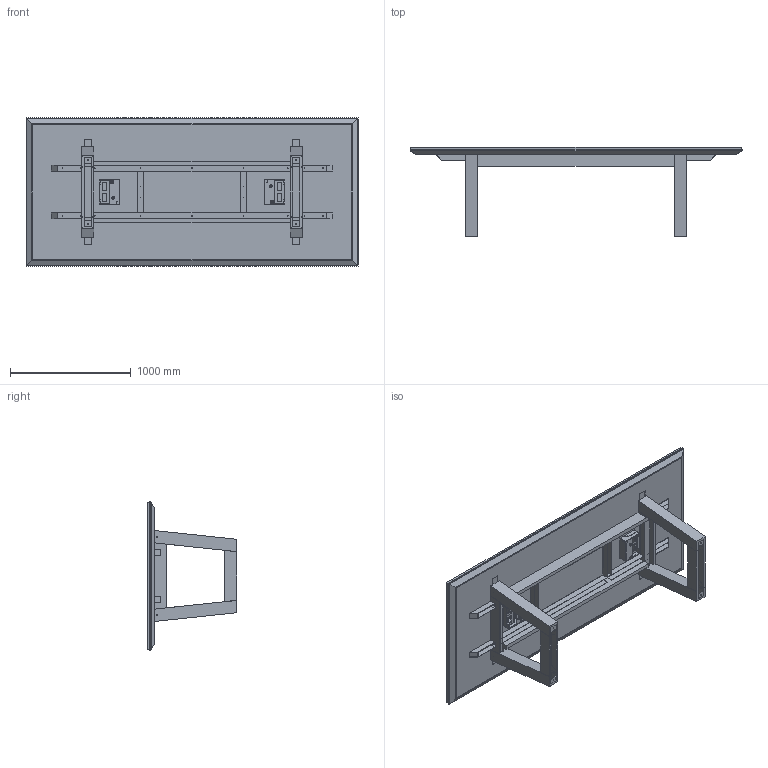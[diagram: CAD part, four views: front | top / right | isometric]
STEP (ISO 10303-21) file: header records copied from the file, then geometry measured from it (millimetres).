
FILE_DESCRIPTION(/* description */ ('','CAx-IF Rec.Pracs.---Representation and Presentation of Product Manufacturing Information (PMI)---4.0---2014-10-13'),/* implementation_level */ '2;1');
FILE_NAME(/* name */ 'TABLE_IMPRESS 2.stp',/* time_stamp */ '2024-12-07T16:04:40-05:00',/* author */ ('mbowman'),/* organization */ (''),/* preprocessor_version */ 'ST-DEVELOPER v19.2',/* originating_system */ 'Autodesk Inventor 2023',/* authorisation */ '');
FILE_SCHEMA (('AP242_MANAGED_MODEL_BASED_3D_ENGINEERING_MIM_LF { 1 0 10303 442 3 1 4 }','AP242_MANAGED_MODEL_BASED_3D_ENGINEERING_MIM_LF { 1 0 10303 442 1 1 4 }'));
Length unit declared in the file: inch
Products named in the file (32): IMPRESS^TABLE 2_48x108 WOOD LEGS-30in BASE SOLID ASSEMBLY; IMPRESS^TABLE 2_48x108 WOOD LEGS-TOP PARTS SOLID; IMPRESS^TABLE 2_24in BASE_TABLE BASE ASSY 48X28X501; IMPRESS^TABLE 2_24in BASE^OUTER 0107; IMPRESS^TABLE 2_24in BASE^INNER 0105; IMPRESS^TABLE 2_24in BASE^OUTER 0208; IMPRESS^TABLE 2_24in BASE^INNER 0206; IMPRESS^TABLE 2_24in BASE^COVER TOP04; IMPRESS^TABLE 2_24in BASE^SIDE 0311; IMPRESS^TABLE 2_24in BASE^COVER SIDE 0102; IMPRESS^TABLE 2_24in BASE^SIDE 0109; IMPRESS^TABLE 2_24in BASE^SIDE 0210; IMPRESS^TABLE 2_24in BASE^SIDE 0412; IMPRESS^TABLE 2_24in BASE^COVER SIDE 0203; IMPRESS^TABLE 2_24 BASE METAL-BOTTOM CHANNEL; IMPRESS^TABLE 2_48x108 WOOD LEGS-POWER LID; ECA INTERACT+ UT (MODIFIED); ECA INTERACT+ UT (MODIFIED)_1; 8965-6403_8965-6408 no wires; 025-0043_025-0043; _ASSEM_HINGE; _ASSEM_HINGE_1; _ASSEM_HINGE_2; _ASSEM_HINGE_3; _SUPPORT; _TIGE_3; _ARM; _TIGE_2; _TIGE_1; IMPRESS^TABLE 2_24 BASE METAL-TOP FRAME; IMPRESS^TABLE 2_30in BASE^SIDE KEEL; IMPRESS^TABLE 2_24in BASE^END KEEL
Assembly tree (79 placements, depth 4):
  IMPRESS^TABLE 2_48x108 WOOD LEGS-30in BASE SOLID ASSEMBLY
    IMPRESS^TABLE 2_48x108 WOOD LEGS-TOP PARTS SOLID
    IMPRESS^TABLE 2_24in BASE_TABLE BASE ASSY 48X28X501  x2
      IMPRESS^TABLE 2_24in BASE^OUTER 0107
      IMPRESS^TABLE 2_24in BASE^INNER 0105
      IMPRESS^TABLE 2_24in BASE^OUTER 0208
      IMPRESS^TABLE 2_24in BASE^INNER 0206
      IMPRESS^TABLE 2_24in BASE^COVER TOP04
      IMPRESS^TABLE 2_24in BASE^SIDE 0311
      IMPRESS^TABLE 2_24in BASE^COVER SIDE 0102
      IMPRESS^TABLE 2_24in BASE^SIDE 0109
      IMPRESS^TABLE 2_24in BASE^SIDE 0210
      IMPRESS^TABLE 2_24in BASE^SIDE 0412
      IMPRESS^TABLE 2_24in BASE^COVER SIDE 0203
      IMPRESS^TABLE 2_24 BASE METAL-BOTTOM CHANNEL
    IMPRESS^TABLE 2_48x108 WOOD LEGS-POWER LID  x2
    ECA INTERACT+ UT (MODIFIED)  x2
      ECA INTERACT+ UT (MODIFIED)_1
      8965-6403_8965-6408 no wires
        025-0043_025-0043
    _ASSEM_HINGE
      _SUPPORT  x2
      _TIGE_3  x2
      _ARM  x4
      _TIGE_1  x2
      _TIGE_2
    _ASSEM_HINGE_1
      _SUPPORT  x2
      _TIGE_3  x2
      _ARM  x4
      _TIGE_1  x2
      _TIGE_2
    _ASSEM_HINGE_2
      _SUPPORT  x2
      _TIGE_3  x2
      _ARM  x4
      _TIGE_1  x2
      _TIGE_2
    _ASSEM_HINGE_3
      _SUPPORT  x2
      _TIGE_3  x2
      _ARM  x4
      _TIGE_1  x2
      _TIGE_2
    IMPRESS^TABLE 2_24 BASE METAL-TOP FRAME
    IMPRESS^TABLE 2_30in BASE^SIDE KEEL  x2
    IMPRESS^TABLE 2_24in BASE^END KEEL  x2
Bounding box: 2752.72 x 743.04 x 1228.72 mm (x, y, z)
Volume: 220607716 mm3; surface area: 22279810.1 mm2
Topology: 113 solids, 113 shells, 5197 faces, 14072 edges, 9108 vertices
Faces by surface type: plane 3157, cylinder 1766, torus 176, cone 66, sphere 32
Full cylindrical faces by diameter (mm): 1 x84, 1.1 x8, 4.762 x22, 7.938 x36, 8 x6, 8.007 x2, 9.525 x2, 38.1 x4
Entity records: 41982 total; most frequent: CARTESIAN_POINT 10271, DIRECTION 5970, ORIENTED_EDGE 5750, EDGE_CURVE 2875, LINE 2270, VECTOR 2270, VERTEX_POINT 1880, AXIS2_PLACEMENT_3D 1850
